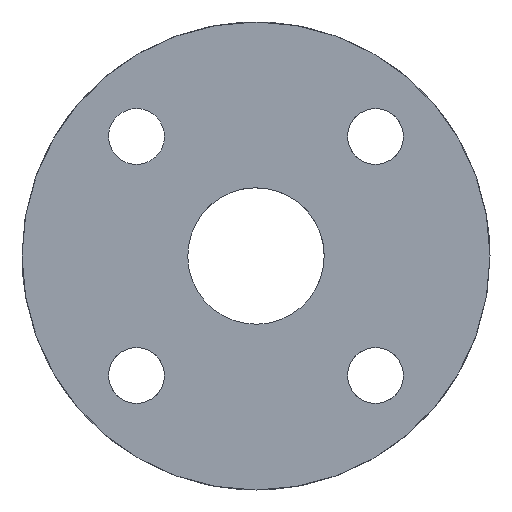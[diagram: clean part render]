
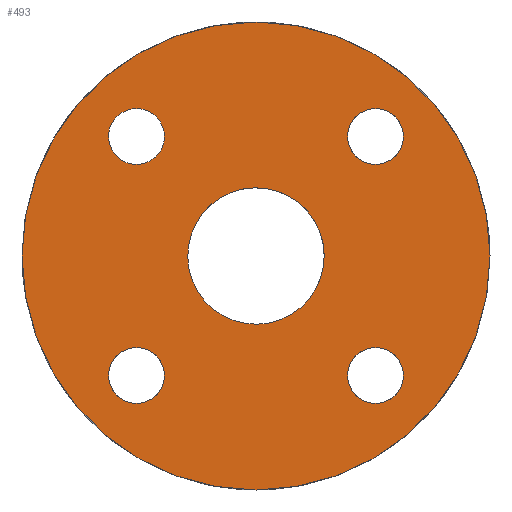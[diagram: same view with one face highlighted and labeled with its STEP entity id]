
A CAD part, left-side view. The second image highlights one B-rep face of the part: STEP entity #493.
In plain terms, the highlighted planar face has unit normal (-1, 0, 0).
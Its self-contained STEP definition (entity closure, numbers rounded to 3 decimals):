
#63=CARTESIAN_POINT('Vertex',(0.,7.306,8.162)) ;
#83=CARTESIAN_POINT('Vertex',(0.,11.079,10.223)) ;
#87=CARTESIAN_POINT('Control Point',(0.,7.306,8.162)) ;
#88=CARTESIAN_POINT('Control Point',(0.,7.629,7.569)) ;
#89=CARTESIAN_POINT('Control Point',(0.,8.186,7.103)) ;
#90=CARTESIAN_POINT('Control Point',(0.,8.91,6.891)) ;
#91=CARTESIAN_POINT('Control Point',(0.,10.35,7.073)) ;
#92=CARTESIAN_POINT('Control Point',(0.,11.282,8.186)) ;
#93=CARTESIAN_POINT('Control Point',(0.,11.494,8.91)) ;
#94=CARTESIAN_POINT('Control Point',(0.,11.403,9.63)) ;
#95=CARTESIAN_POINT('Control Point',(0.,11.079,10.223)) ;
#114=CARTESIAN_POINT('Axis2P3D Location',(0.,9.192,9.192)) ;
#394=CARTESIAN_POINT('Axis2P3D Location',(0.,0.,0.)) ;
#399=CARTESIAN_POINT('Axis2P3D Location',(0.,0.,0.)) ;
#403=CARTESIAN_POINT('Vertex',(0.,-18.,0.)) ;
#405=CARTESIAN_POINT('Vertex',(0.,18.,0.)) ;
#408=CARTESIAN_POINT('Axis2P3D Location',(0.,0.,0.)) ;
#421=CARTESIAN_POINT('Axis2P3D Location',(0.,0.,0.)) ;
#425=CARTESIAN_POINT('Vertex',(0.,-4.607,-2.517)) ;
#427=CARTESIAN_POINT('Vertex',(0.,4.607,2.517)) ;
#430=CARTESIAN_POINT('Axis2P3D Location',(0.,0.,0.)) ;
#439=CARTESIAN_POINT('Axis2P3D Location',(0.,-9.192,9.192)) ;
#443=CARTESIAN_POINT('Vertex',(0.,-10.223,11.079)) ;
#445=CARTESIAN_POINT('Vertex',(0.,-8.162,7.306)) ;
#448=CARTESIAN_POINT('Axis2P3D Location',(0.,-9.192,9.192)) ;
#457=CARTESIAN_POINT('Axis2P3D Location',(0.,-9.192,-9.192)) ;
#461=CARTESIAN_POINT('Vertex',(0.,-11.079,-10.223)) ;
#463=CARTESIAN_POINT('Vertex',(0.,-7.306,-8.162)) ;
#466=CARTESIAN_POINT('Axis2P3D Location',(0.,-9.192,-9.192)) ;
#475=CARTESIAN_POINT('Axis2P3D Location',(0.,9.192,-9.192)) ;
#479=CARTESIAN_POINT('Vertex',(0.,10.223,-11.079)) ;
#481=CARTESIAN_POINT('Vertex',(0.,8.162,-7.306)) ;
#484=CARTESIAN_POINT('Axis2P3D Location',(0.,9.192,-9.192)) ;
#115=DIRECTION('Axis2P3D Direction',(1.,0.,-0.)) ;
#395=DIRECTION('Axis2P3D Direction',(1.,0.,0.)) ;
#396=DIRECTION('Axis2P3D XDirection',(0.,1.,0.)) ;
#400=DIRECTION('Axis2P3D Direction',(1.,0.,0.)) ;
#409=DIRECTION('Axis2P3D Direction',(1.,0.,0.)) ;
#422=DIRECTION('Axis2P3D Direction',(1.,0.,0.)) ;
#431=DIRECTION('Axis2P3D Direction',(1.,0.,0.)) ;
#440=DIRECTION('Axis2P3D Direction',(1.,0.,0.)) ;
#449=DIRECTION('Axis2P3D Direction',(1.,0.,0.)) ;
#458=DIRECTION('Axis2P3D Direction',(1.,0.,0.)) ;
#467=DIRECTION('Axis2P3D Direction',(1.,0.,0.)) ;
#476=DIRECTION('Axis2P3D Direction',(1.,0.,0.)) ;
#485=DIRECTION('Axis2P3D Direction',(1.,0.,0.)) ;
#116=AXIS2_PLACEMENT_3D('Circle Axis2P3D',#114,#115,$) ;
#397=AXIS2_PLACEMENT_3D('Plane Axis2P3D',#394,#395,#396) ;
#401=AXIS2_PLACEMENT_3D('Circle Axis2P3D',#399,#400,$) ;
#410=AXIS2_PLACEMENT_3D('Circle Axis2P3D',#408,#409,$) ;
#423=AXIS2_PLACEMENT_3D('Circle Axis2P3D',#421,#422,$) ;
#432=AXIS2_PLACEMENT_3D('Circle Axis2P3D',#430,#431,$) ;
#441=AXIS2_PLACEMENT_3D('Circle Axis2P3D',#439,#440,$) ;
#450=AXIS2_PLACEMENT_3D('Circle Axis2P3D',#448,#449,$) ;
#459=AXIS2_PLACEMENT_3D('Circle Axis2P3D',#457,#458,$) ;
#468=AXIS2_PLACEMENT_3D('Circle Axis2P3D',#466,#467,$) ;
#477=AXIS2_PLACEMENT_3D('Circle Axis2P3D',#475,#476,$) ;
#486=AXIS2_PLACEMENT_3D('Circle Axis2P3D',#484,#485,$) ;
#414=ORIENTED_EDGE('',*,*,#407,.F.) ;
#415=ORIENTED_EDGE('',*,*,#412,.F.) ;
#418=ORIENTED_EDGE('',*,*,#96,.T.) ;
#419=ORIENTED_EDGE('',*,*,#118,.T.) ;
#436=ORIENTED_EDGE('',*,*,#429,.T.) ;
#437=ORIENTED_EDGE('',*,*,#434,.T.) ;
#454=ORIENTED_EDGE('',*,*,#447,.T.) ;
#455=ORIENTED_EDGE('',*,*,#452,.T.) ;
#472=ORIENTED_EDGE('',*,*,#465,.T.) ;
#473=ORIENTED_EDGE('',*,*,#470,.T.) ;
#490=ORIENTED_EDGE('',*,*,#483,.T.) ;
#491=ORIENTED_EDGE('',*,*,#488,.T.) ;
#420=FACE_BOUND('',#417,.T.) ;
#438=FACE_BOUND('',#435,.T.) ;
#456=FACE_BOUND('',#453,.T.) ;
#474=FACE_BOUND('',#471,.T.) ;
#492=FACE_BOUND('',#489,.T.) ;
#493=ADVANCED_FACE('TTM10',(#416,#420,#438,#456,#474,#492),#398,.F.) ;
#86=B_SPLINE_CURVE_WITH_KNOTS('',5,(#87,#88,#89,#90,#91,#92,#93,#94,#95),.UNSPECIFIED.,.F.,.U.,(6,3,6),(-3.377,0.,3.377),.UNSPECIFIED.) ;
#117=CIRCLE('generated circle',#116,2.15) ;
#402=CIRCLE('generated circle',#401,18.) ;
#411=CIRCLE('generated circle',#410,18.) ;
#424=CIRCLE('generated circle',#423,5.25) ;
#433=CIRCLE('generated circle',#432,5.25) ;
#442=CIRCLE('generated circle',#441,2.15) ;
#451=CIRCLE('generated circle',#450,2.15) ;
#460=CIRCLE('generated circle',#459,2.15) ;
#469=CIRCLE('generated circle',#468,2.15) ;
#478=CIRCLE('generated circle',#477,2.15) ;
#487=CIRCLE('generated circle',#486,2.15) ;
#96=EDGE_CURVE('',#64,#84,#86,.T.) ;
#118=EDGE_CURVE('',#84,#64,#117,.T.) ;
#407=EDGE_CURVE('',#404,#406,#402,.T.) ;
#412=EDGE_CURVE('',#406,#404,#411,.T.) ;
#429=EDGE_CURVE('',#426,#428,#424,.T.) ;
#434=EDGE_CURVE('',#428,#426,#433,.T.) ;
#447=EDGE_CURVE('',#444,#446,#442,.T.) ;
#452=EDGE_CURVE('',#446,#444,#451,.T.) ;
#465=EDGE_CURVE('',#462,#464,#460,.T.) ;
#470=EDGE_CURVE('',#464,#462,#469,.T.) ;
#483=EDGE_CURVE('',#480,#482,#478,.T.) ;
#488=EDGE_CURVE('',#482,#480,#487,.T.) ;
#413=EDGE_LOOP('',(#414,#415)) ;
#417=EDGE_LOOP('',(#418,#419)) ;
#435=EDGE_LOOP('',(#436,#437)) ;
#453=EDGE_LOOP('',(#454,#455)) ;
#471=EDGE_LOOP('',(#472,#473)) ;
#489=EDGE_LOOP('',(#490,#491)) ;
#416=FACE_OUTER_BOUND('',#413,.T.) ;
#398=PLANE('',#397) ;
#64=VERTEX_POINT('',#63) ;
#84=VERTEX_POINT('',#83) ;
#404=VERTEX_POINT('',#403) ;
#406=VERTEX_POINT('',#405) ;
#426=VERTEX_POINT('',#425) ;
#428=VERTEX_POINT('',#427) ;
#444=VERTEX_POINT('',#443) ;
#446=VERTEX_POINT('',#445) ;
#462=VERTEX_POINT('',#461) ;
#464=VERTEX_POINT('',#463) ;
#480=VERTEX_POINT('',#479) ;
#482=VERTEX_POINT('',#481) ;
